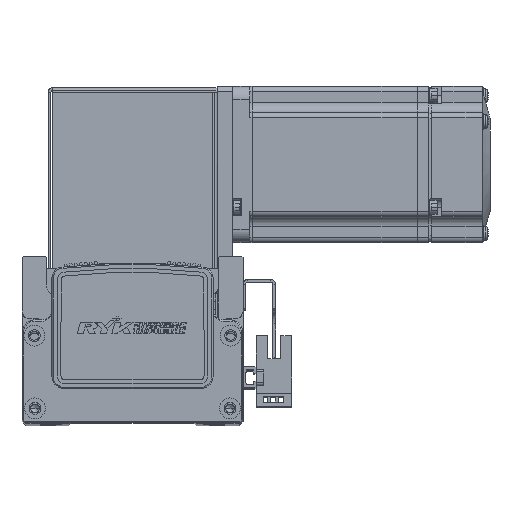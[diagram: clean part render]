
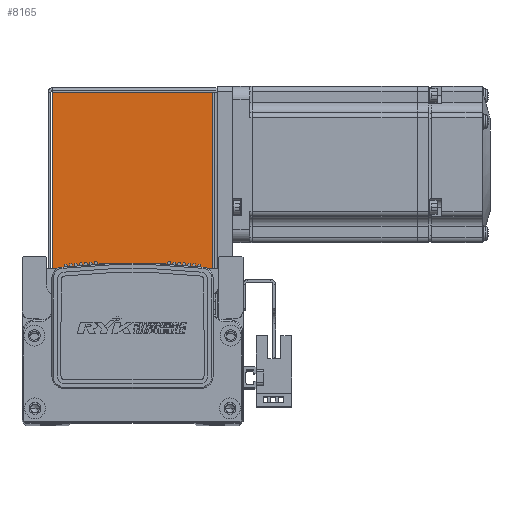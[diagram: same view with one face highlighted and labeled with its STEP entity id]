
A CAD part, top view. The second image highlights one B-rep face of the part: STEP entity #8165.
In plain terms, the highlighted planar face has unit normal (0, 0, 1) as drawn and (0, 0, -1) by its records, which use the part's own axes.
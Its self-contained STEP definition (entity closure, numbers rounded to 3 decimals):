
#1962 = PLANE ( 'NONE',  #53381 ) ;
#1988 = DIRECTION ( 'NONE',  ( 0., -1., 0. ) ) ;
#1993 = CARTESIAN_POINT ( 'NONE',  ( 0., 0., -35. ) ) ;
#1997 = DIRECTION ( 'NONE',  ( 0., 0., 1. ) ) ;
#8165 = ADVANCED_FACE ( 'NONE', ( #70715 ), #1962, .F. ) ;
#8755 = ORIENTED_EDGE ( 'NONE', *, *, #27986, .T. ) ;
#8756 = ORIENTED_EDGE ( 'NONE', *, *, #27958, .T. ) ;
#8775 = ORIENTED_EDGE ( 'NONE', *, *, #28000, .T. ) ;
#9918 = ORIENTED_EDGE ( 'NONE', *, *, #28010, .F. ) ;
#11615 = EDGE_LOOP ( 'NONE', ( #8756, #9918, #8755, #8775 ) ) ;
#27958 = EDGE_CURVE ( 'NONE', #36716, #36702, #73302, .T. ) ;
#27986 = EDGE_CURVE ( 'NONE', #36640, #36752, #73298, .T. ) ;
#28000 = EDGE_CURVE ( 'NONE', #36752, #36716, #73343, .T. ) ;
#28010 = EDGE_CURVE ( 'NONE', #36640, #36702, #73396, .T. ) ;
#36640 = VERTEX_POINT ( 'NONE', #65520 ) ;
#36702 = VERTEX_POINT ( 'NONE', #65522 ) ;
#36716 = VERTEX_POINT ( 'NONE', #65513 ) ;
#36752 = VERTEX_POINT ( 'NONE', #65562 ) ;
#53381 = AXIS2_PLACEMENT_3D ( 'NONE', #1993, #1997, #1988 ) ;
#56937 = CARTESIAN_POINT ( 'NONE',  ( 30.763, 68.5, -35. ) ) ;
#56986 = DIRECTION ( 'NONE',  ( 0., -1., 0. ) ) ;
#56996 = CARTESIAN_POINT ( 'NONE',  ( -30.793, 0., -35. ) ) ;
#57017 = DIRECTION ( 'NONE',  ( 0., 1., 0. ) ) ;
#59962 = CARTESIAN_POINT ( 'NONE',  ( 0., 68.5, -35. ) ) ;
#59964 = DIRECTION ( 'NONE',  ( 1., 0., 0. ) ) ;
#59991 = CARTESIAN_POINT ( 'NONE',  ( 32.5, 0.737, -35. ) ) ;
#60009 = DIRECTION ( 'NONE',  ( 1., 0., 0. ) ) ;
#65513 = CARTESIAN_POINT ( 'NONE',  ( 30.763, 68.5, -35. ) ) ;
#65520 = CARTESIAN_POINT ( 'NONE',  ( -30.793, 0.737, -35. ) ) ;
#65522 = CARTESIAN_POINT ( 'NONE',  ( 30.763, 0.737, -35. ) ) ;
#65562 = CARTESIAN_POINT ( 'NONE',  ( -30.793, 68.5, -35. ) ) ;
#70715 = FACE_OUTER_BOUND ( 'NONE', #11615, .T. ) ;
#73281 = VECTOR ( 'NONE', #57017, 1000. ) ;
#73298 = LINE ( 'NONE', #56996, #73281 ) ;
#73302 = LINE ( 'NONE', #56937, #73323 ) ;
#73323 = VECTOR ( 'NONE', #56986, 1000. ) ;
#73343 = LINE ( 'NONE', #59962, #73368 ) ;
#73368 = VECTOR ( 'NONE', #59964, 1000. ) ;
#73396 = LINE ( 'NONE', #59991, #73398 ) ;
#73398 = VECTOR ( 'NONE', #60009, 1000. ) ;
